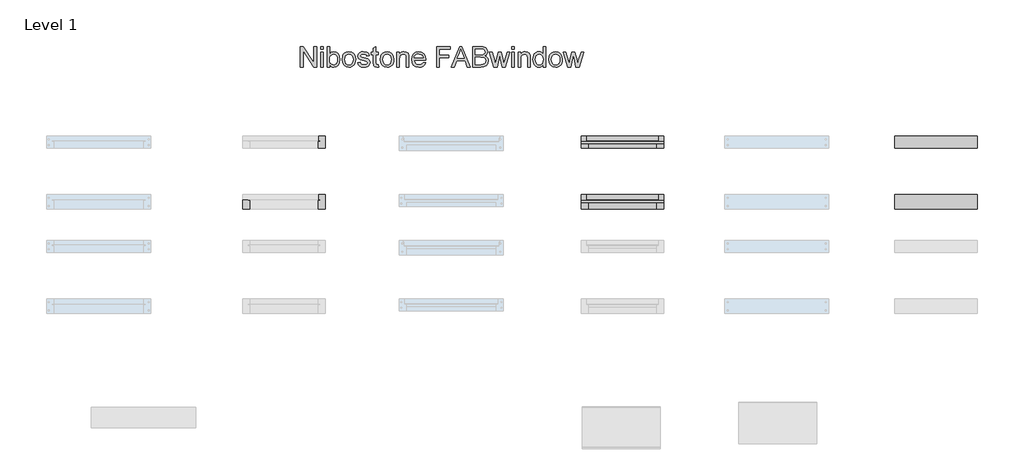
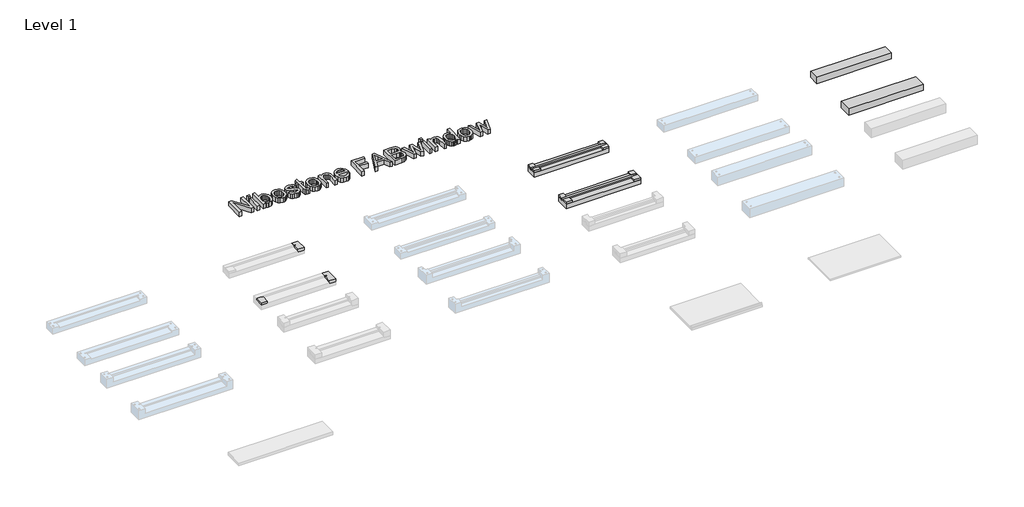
# One storey, part 4 of 4: 12 proxies.
"""IFC4 building model written with IfcOpenShell, lengths in millimetres."""

from ifc_helpers import new_model, si_unit, frame, origin, origin_with_axes, place, context, project, spatial, polyline, outline, extrude, faceted_brep, element, save

model = new_model("IFC4")

# Units and contexts
model_context = context("Model", 3, world=origin())
ifc_project = project(units=[si_unit("LENGTHUNIT", "METRE", prefix="MILLI")], contexts=[model_context])

# Site, building, storey
site = spatial("IfcSite", under=ifc_project)
building = spatial("IfcBuilding", under=site)
storey = spatial("IfcBuildingStorey", under=building, Name="Level 1", Elevation=0.0)

# Proxies
placement = place(None, origin())
element("IfcBuildingElementProxy", 1, Name="200 mm", ObjectType="200 mm", at=placement, inside=storey, context=model_context, shape_type="SweptSolid", body=[
    extrude(outline(polyline([(13803.9519218, 17664.2498472), (13803.9519218, 17861.1729242), (13830.2980756, 17861.1729242), (13933.182691, 17705.1633088), (13933.182691, 17861.1729242), (13957.7980756, 17861.1729242), (13957.7980756, 17664.2498472), (13931.4519218, 17664.2498472), (13828.5673064, 17820.3075395), (13828.5673064, 17664.2498472), (13803.9519218, 17664.2498472)])), origin_with_axes(), (0.0, 0.0, 1.0), 50.0),
    extrude(outline(polyline([(13997.7980756, 17664.2498472), (13997.7980756, 17808.8652319), (14022.4134603, 17808.8652319), (14022.4134603, 17664.2498472), (13997.7980756, 17664.2498472)])), origin_with_axes(), (0.0, 0.0, 1.0), 50.0),
    extrude(outline(polyline([(13997.7980756, 17836.5575395), (13997.7980756, 17861.1729242), (14022.4134603, 17861.1729242), (14022.4134603, 17836.5575395), (13997.7980756, 17836.5575395)])), origin_with_axes(), (0.0, 0.0, 1.0), 50.0),
    extrude(outline(polyline([(14083.9519218, 17664.2498472), (14059.3365372, 17664.2498472), (14059.3365372, 17861.1729242), (14083.9519218, 17861.1729242), (14083.9519218, 17788.144078), (14101.1874987, 17805.9926357), (14122.605768, 17811.9421549), (14147.2692295, 17806.581578), (14166.4038449, 17791.5094626), (14178.1586526, 17768.0719626), (14182.4134603, 17738.7210011), (14178.0084122, 17705.8604242), (14164.793268, 17681.4133088), (14145.4002391, 17666.2330203), (14122.4615372, 17661.1729242), (14110.8599747, 17662.8045347), (14100.574518, 17667.6993665), (14083.9519218, 17687.2786934), (14083.9519218, 17664.2498472)]), holes=[polyline([(14083.9519218, 17737.5671549), (14085.6346141, 17717.0383088), (14090.682691, 17703.144078), (14103.5793256, 17690.1272511), (14120.3461526, 17685.7883088), (14134.5528833, 17688.9854242), (14146.6923064, 17698.5767703), (14155.0216333, 17714.5022511), (14157.7980756, 17736.7017703), (14155.135816, 17759.2258088), (14147.1490372, 17774.9710011), (14135.3882199, 17784.237828), (14121.4038449, 17787.3267703), (14107.1971141, 17784.1296549), (14095.057691, 17774.5383088), (14086.7283641, 17758.9012895), (14083.9519218, 17737.5671549)])]), origin_with_axes(), (0.0, 0.0, 1.0), 50.0),
    extrude(outline(polyline([(14203.9519218, 17736.5575395), (14209.276441, 17771.425328), (14215.9320901, 17784.9740059), (14225.2499987, 17795.9325395), (14244.9855756, 17807.9397511), (14268.6153833, 17811.9421549), (14294.4747583, 17807.0683569), (14315.1298064, 17792.4469626), (14328.6694699, 17769.2318184), (14333.182691, 17738.5767703), (14331.1874987, 17713.7089819), (14325.2019218, 17694.7786934), (14315.4002391, 17680.6020107), (14301.9567295, 17669.9950395), (14285.9891814, 17663.378453), (14268.6153833, 17661.1729242), (14242.4435083, 17666.0286934), (14221.8124987, 17680.5960011), (14208.417066, 17704.2979242), (14203.9519218, 17736.5575395)]), holes=[polyline([(14228.5673064, 17736.6056165), (14231.4158641, 17714.3279722), (14239.9615372, 17698.456578), (14252.8221141, 17688.9553761), (14268.6153833, 17685.7883088), (14284.3365372, 17688.9734049), (14297.1730756, 17698.5286934), (14305.7187487, 17714.6104242), (14308.5673064, 17737.3748472), (14305.7007199, 17759.003453), (14297.1009603, 17774.6585011), (14284.246393, 17784.159703), (14268.6153833, 17787.3267703), (14252.8221141, 17784.1717222), (14239.9615372, 17774.706578), (14231.4158641, 17758.8712415), (14228.5673064, 17736.6056165)])]), origin_with_axes(), (0.0, 0.0, 1.0), 50.0),
    extrude(outline(polyline([(14351.6442295, 17707.3267703), (14376.2596141, 17710.4036934), (14380.1418256, 17699.8748472), (14387.6538449, 17692.1344626), (14398.8437487, 17687.3748472), (14413.7596141, 17685.7883088), (14428.495191, 17687.2426357), (14438.855768, 17691.6056165), (14444.9855756, 17697.9277319), (14447.0288449, 17705.2594626), (14444.9735564, 17711.5335011), (14438.807691, 17716.3171549), (14413.4711526, 17723.3363857), (14376.4038449, 17735.3796549), (14360.2259603, 17749.4421549), (14354.7211526, 17769.2979242), (14359.1442295, 17787.6392703), (14371.2115372, 17801.6536934), (14386.8605756, 17808.9373472), (14408.0384603, 17811.9421549), (14437.9903833, 17807.1104242), (14449.1923064, 17801.425328), (14457.0288449, 17794.0335011), (14465.4903833, 17771.9421549), (14440.8749987, 17768.8652319), (14437.7680276, 17776.6116261), (14431.620191, 17782.4469626), (14409.9615372, 17787.3267703), (14395.8269218, 17786.1609049), (14386.4038449, 17782.6633088), (14381.1033641, 17777.6152319), (14379.3365372, 17771.7979242), (14382.2692295, 17764.6344626), (14391.4519218, 17759.2017703), (14412.6538449, 17753.9613857), (14448.7836526, 17742.3748472), (14465.5624987, 17729.2498472), (14470.1237968, 17719.5984049), (14471.6442295, 17707.8556165), (14469.8593737, 17695.7161934), (14464.5048064, 17684.2979242), (14455.7848545, 17674.4962415), (14443.9038449, 17667.206578), (14429.5528833, 17662.6813376), (14413.4230756, 17661.1729242), (14388.6033641, 17664.081578), (14370.4903833, 17672.8075395), (14358.3990372, 17687.2546549), (14351.6442295, 17707.3267703)])), origin_with_axes(), (0.0, 0.0, 1.0), 50.0),
    extrude(outline(polyline([(14551.6442295, 17684.7786934), (14554.7211526, 17663.5286934), (14536.307691, 17661.1729242), (14515.682691, 17665.2594626), (14505.3942295, 17675.9806165), (14502.4134603, 17703.9133088), (14502.4134603, 17784.2498472), (14483.9519218, 17784.2498472), (14483.9519218, 17808.8652319), (14502.4134603, 17808.8652319), (14502.4134603, 17844.0094626), (14527.0288449, 17858.4806165), (14527.0288449, 17808.8652319), (14551.6442295, 17808.8652319), (14551.6442295, 17784.2498472), (14527.0288449, 17784.2498472), (14527.0288449, 17704.6344626), (14528.3269218, 17691.9421549), (14532.5336526, 17687.4469626), (14540.9230756, 17685.7883088), (14551.6442295, 17684.7786934)])), origin_with_axes(), (0.0, 0.0, 1.0), 50.0),
    extrude(outline(polyline([(14570.105768, 17736.5575395), (14575.4302872, 17771.425328), (14582.0859362, 17784.9740059), (14591.4038449, 17795.9325395), (14611.1394218, 17807.9397511), (14634.7692295, 17811.9421549), (14660.6286045, 17807.0683569), (14681.2836526, 17792.4469626), (14694.823316, 17769.2318184), (14699.3365372, 17738.5767703), (14697.3413449, 17713.7089819), (14691.355768, 17694.7786934), (14681.5540853, 17680.6020107), (14668.1105756, 17669.9950395), (14652.1430276, 17663.378453), (14634.7692295, 17661.1729242), (14608.5973545, 17666.0286934), (14587.9663449, 17680.5960011), (14574.5709122, 17704.2979242), (14570.105768, 17736.5575395)]), holes=[polyline([(14594.7211526, 17736.6056165), (14597.5697103, 17714.3279722), (14606.1153833, 17698.456578), (14618.9759603, 17688.9553761), (14634.7692295, 17685.7883088), (14650.4903833, 17688.9734049), (14663.3269218, 17698.5286934), (14671.8725949, 17714.6104242), (14674.7211526, 17737.3748472), (14671.854566, 17759.003453), (14663.2548064, 17774.6585011), (14650.4002391, 17784.159703), (14634.7692295, 17787.3267703), (14618.9759603, 17784.1717222), (14606.1153833, 17774.706578), (14597.5697103, 17758.8712415), (14594.7211526, 17736.6056165)])]), origin_with_axes(), (0.0, 0.0, 1.0), 50.0),
    extrude(outline(polyline([(14727.0288449, 17664.2498472), (14727.0288449, 17808.8652319), (14751.6442295, 17808.8652319), (14751.6442295, 17788.6729242), (14760.1959122, 17798.8532126), (14770.4663449, 17806.1248472), (14782.4555276, 17810.487828), (14796.1634603, 17811.9421549), (14819.4086526, 17807.2546549), (14835.2740372, 17794.9469626), (14842.6538449, 17776.8460011), (14843.9519218, 17753.0479242), (14843.9519218, 17664.2498472), (14819.3365372, 17664.2498472), (14819.3365372, 17749.7306165), (14816.4999987, 17771.5094626), (14806.4759603, 17783.0238857), (14789.5769218, 17787.3267703), (14775.1598545, 17784.9109049), (14762.870191, 17777.6633088), (14754.4507199, 17763.6609049), (14751.6442295, 17740.9806165), (14751.6442295, 17664.2498472), (14727.0288449, 17664.2498472)])), origin_with_axes(), (0.0, 0.0, 1.0), 50.0),
    extrude(outline(polyline([(14979.0480756, 17707.3267703), (15003.182691, 17704.2498472), (14994.4867776, 17686.0647511), (14980.6105756, 17672.4710011), (14961.8665853, 17663.9974434), (14938.5673064, 17661.1729242), (14909.6850949, 17666.0467222), (14887.4615372, 17680.6681165), (14873.2908641, 17704.0875876), (14868.5673064, 17735.3556165), (14873.338941, 17767.675328), (14887.6538449, 17791.8460011), (14909.5769218, 17806.9181165), (14937.1730756, 17811.9421549), (14963.9098545, 17806.9301357), (14985.2740372, 17791.894078), (14999.2824506, 17767.7714819), (15003.9519218, 17735.4998472), (15003.807691, 17728.8652319), (14893.182691, 17728.8652319), (14897.4435083, 17710.4397511), (14907.3413449, 17696.894078), (14921.6262006, 17688.5647511), (14939.0480756, 17685.7883088), (14963.182691, 17690.9325395), (14972.1490372, 17697.6032126), (14979.0480756, 17707.3267703)]), holes=[polyline([(14893.182691, 17753.4806165), (14979.3365372, 17753.4806165), (14976.0072103, 17766.4854242), (14969.480768, 17775.7883088), (14955.1298064, 17784.4421549), (14937.0769218, 17787.3267703), (14920.4843737, 17785.0250876), (14906.7644218, 17778.1200395), (14897.2271622, 17767.3568184), (14893.182691, 17753.4806165)])]), origin_with_axes(), (0.0, 0.0, 1.0), 50.0),
    extrude(outline(polyline([(15108.5673064, 17664.2498472), (15108.5673064, 17861.1729242), (15240.8749987, 17861.1729242), (15240.8749987, 17836.5575395), (15133.182691, 17836.5575395), (15133.182691, 17778.0960011), (15225.4903833, 17778.0960011), (15225.4903833, 17753.4806165), (15133.182691, 17753.4806165), (15133.182691, 17664.2498472), (15108.5673064, 17664.2498472)])), origin_with_axes(), (0.0, 0.0, 1.0), 50.0),
    extrude(outline(polyline([(15251.7884603, 17664.2498472), (15330.3942295, 17861.1729242), (15351.355768, 17861.1729242), (15429.9615372, 17664.2498472), (15403.9519218, 17664.2498472), (15381.4038449, 17725.7883088), (15300.2980756, 17725.7883088), (15277.7980756, 17664.2498472), (15251.7884603, 17664.2498472)]), holes=[polyline([(15309.3365372, 17750.4036934), (15372.4134603, 17750.4036934), (15354.6730756, 17798.8171549), (15340.8749987, 17836.5575395), (15328.6153833, 17803.0479242), (15309.3365372, 17750.4036934)])]), origin_with_axes(), (0.0, 0.0, 1.0), 50.0),
    extrude(outline(polyline([(15456.2596141, 17664.2498472), (15456.2596141, 17861.1729242), (15531.4038449, 17861.1729242), (15552.0709122, 17859.7246069), (15568.2067295, 17855.3796549), (15580.574518, 17848.0298953), (15589.9374987, 17837.5671549), (15595.8329314, 17825.2594626), (15597.7980756, 17812.3748472), (15596.1454314, 17800.5178761), (15591.1874987, 17789.3700395), (15582.8882199, 17779.6164338), (15571.2115372, 17771.9421549), (15585.1598545, 17764.6585011), (15595.4663449, 17753.5767703), (15601.8305276, 17739.4301357), (15603.9519218, 17722.9517703), (15598.1586526, 17696.4854242), (15583.807691, 17677.6392703), (15562.3894218, 17667.6392703), (15530.8269218, 17664.2498472), (15456.2596141, 17664.2498472)]), holes=[polyline([(15480.8749987, 17781.1729242), (15525.8269218, 17781.1729242), (15552.0769218, 17783.2883088), (15567.870191, 17792.3988857), (15573.182691, 17808.4325395), (15568.230768, 17824.4902319), (15554.0480756, 17833.9854242), (15522.4134603, 17836.5575395), (15480.8749987, 17836.5575395), (15480.8749987, 17781.1729242)]), polyline([(15480.8749987, 17688.8652319), (15531.355768, 17688.8652319), (15549.6249987, 17689.8267703), (15565.0817295, 17695.1873472), (15575.3221141, 17706.1248472), (15579.3365372, 17722.7113857), (15574.6249987, 17741.8460011), (15568.4531237, 17748.7630684), (15559.3605756, 17753.2642703), (15528.9519218, 17756.5575395), (15480.8749987, 17756.5575395), (15480.8749987, 17688.8652319)])]), origin_with_axes(), (0.0, 0.0, 1.0), 50.0),
    extrude(outline(polyline([(15658.7115372, 17664.2498472), (15614.7211526, 17808.8652319), (15640.2980756, 17808.8652319), (15665.2499987, 17724.4902319), (15672.7019218, 17694.3460011), (15678.807691, 17723.3844626), (15698.6634603, 17808.8652319), (15727.9903833, 17808.8652319), (15747.7499987, 17723.6248472), (15753.182691, 17697.3267703), (15760.9711526, 17725.0671549), (15785.9711526, 17808.8652319), (15811.6442295, 17808.8652319), (15767.3173064, 17664.2498472), (15737.557691, 17664.2498472), (15718.6634603, 17749.0575395), (15713.182691, 17775.4998472), (15688.807691, 17664.2498472), (15658.7115372, 17664.2498472)])), origin_with_axes(), (0.0, 0.0, 1.0), 50.0),
    extrude(outline(polyline([(15828.5673064, 17664.2498472), (15828.5673064, 17808.8652319), (15853.182691, 17808.8652319), (15853.182691, 17664.2498472), (15828.5673064, 17664.2498472)])), origin_with_axes(), (0.0, 0.0, 1.0), 50.0),
    extrude(outline(polyline([(15828.5673064, 17836.5575395), (15828.5673064, 17861.1729242), (15853.182691, 17861.1729242), (15853.182691, 17836.5575395), (15828.5673064, 17836.5575395)])), origin_with_axes(), (0.0, 0.0, 1.0), 50.0),
    extrude(outline(polyline([(15890.105768, 17664.2498472), (15890.105768, 17808.8652319), (15914.7211526, 17808.8652319), (15914.7211526, 17788.6729242), (15923.2728353, 17798.8532126), (15933.543268, 17806.1248472), (15945.5324506, 17810.487828), (15959.2403833, 17811.9421549), (15982.4855756, 17807.2546549), (15998.3509603, 17794.9469626), (16005.730768, 17776.8460011), (16007.0288449, 17753.0479242), (16007.0288449, 17664.2498472), (15982.4134603, 17664.2498472), (15982.4134603, 17749.7306165), (15979.5769218, 17771.5094626), (15969.5528833, 17783.0238857), (15952.6538449, 17787.3267703), (15938.2367776, 17784.9109049), (15925.9471141, 17777.6633088), (15917.527643, 17763.6609049), (15914.7211526, 17740.9806165), (15914.7211526, 17664.2498472), (15890.105768, 17664.2498472)])), origin_with_axes(), (0.0, 0.0, 1.0), 50.0),
    extrude(outline(polyline([(16130.105768, 17664.2498472), (16130.105768, 17687.4710011), (16122.7409843, 17675.9655924), (16113.8197103, 17667.7474434), (16103.3419458, 17662.816554), (16091.307691, 17661.1729242), (16075.3942295, 17663.5527319), (16060.8269218, 17670.6921549), (16048.495191, 17682.0923953), (16039.2884603, 17697.2546549), (16033.5552872, 17715.565953), (16031.6442295, 17736.4133088), (16033.4050468, 17757.0022511), (16038.6874987, 17775.5960011), (16047.4855756, 17791.1368665), (16059.793268, 17802.5671549), (16074.6790853, 17809.5984049), (16091.2115372, 17811.9421549), (16103.2548064, 17810.2654722), (16113.9038449, 17805.2354242), (16130.105768, 17787.8075395), (16130.105768, 17861.1729242), (16154.7211526, 17861.1729242), (16154.7211526, 17664.2498472), (16130.105768, 17664.2498472)]), holes=[polyline([(16056.2596141, 17736.5094626), (16059.0360564, 17714.2438376), (16067.3653833, 17698.4085011), (16079.4687487, 17688.9433569), (16093.5673064, 17685.7883088), (16107.6598545, 17688.7991261), (16119.4567295, 17697.831578), (16127.4435083, 17713.0539338), (16130.105768, 17734.6344626), (16127.3954314, 17758.2282126), (16119.2644218, 17774.5863857), (16107.167066, 17784.1416742), (16092.557691, 17787.3267703), (16078.3149026, 17784.2678761), (16066.6442295, 17775.0911934), (16058.855768, 17759.3279722), (16056.2596141, 17736.5094626)])]), origin_with_axes(), (0.0, 0.0, 1.0), 50.0),
    extrude(outline(polyline([(16185.4903833, 17736.5575395), (16190.8149026, 17771.425328), (16197.4705516, 17784.9740059), (16206.7884603, 17795.9325395), (16226.5240372, 17807.9397511), (16250.1538449, 17811.9421549), (16276.0132199, 17807.0683569), (16296.668268, 17792.4469626), (16310.2079314, 17769.2318184), (16314.7211526, 17738.5767703), (16312.7259603, 17713.7089819), (16306.7403833, 17694.7786934), (16296.9387006, 17680.6020107), (16283.495191, 17669.9950395), (16267.527643, 17663.378453), (16250.1538449, 17661.1729242), (16223.9819699, 17666.0286934), (16203.3509603, 17680.5960011), (16189.9555276, 17704.2979242), (16185.4903833, 17736.5575395)]), holes=[polyline([(16210.105768, 17736.6056165), (16212.9543256, 17714.3279722), (16221.4999987, 17698.456578), (16234.3605756, 17688.9553761), (16250.1538449, 17685.7883088), (16265.8749987, 17688.9734049), (16278.7115372, 17698.5286934), (16287.2572103, 17714.6104242), (16290.105768, 17737.3748472), (16287.2391814, 17759.003453), (16278.6394218, 17774.6585011), (16265.7848545, 17784.159703), (16250.1538449, 17787.3267703), (16234.3605756, 17784.1717222), (16221.4999987, 17774.706578), (16212.9543256, 17758.8712415), (16210.105768, 17736.6056165)])]), origin_with_axes(), (0.0, 0.0, 1.0), 50.0),
    extrude(outline(polyline([(16366.4038449, 17664.2498472), (16322.4134603, 17808.8652319), (16347.9903833, 17808.8652319), (16372.9423064, 17724.4902319), (16380.3942295, 17694.3460011), (16386.4999987, 17723.3844626), (16406.355768, 17808.8652319), (16435.682691, 17808.8652319), (16455.4423064, 17723.6248472), (16460.8749987, 17697.3267703), (16468.6634603, 17725.0671549), (16493.6634603, 17808.8652319), (16519.3365372, 17808.8652319), (16475.0096141, 17664.2498472), (16445.2499987, 17664.2498472), (16426.355768, 17749.0575395), (16420.8749987, 17775.4998472), (16396.4999987, 17664.2498472), (16366.4038449, 17664.2498472)])), origin_with_axes(), (0.0, 0.0, 1.0), 50.0),
])
element("IfcBuildingElementProxy", 2, Name="Nibostone : BLOK-114-70", ObjectType="Nibostone : BLOK-114-70", at=placement, inside=storey, context=model_context, shape_type="SweptSolid", body=[
    extrude(outline(polyline([(19500.0, 16885.5777074), (19500.0, 16999.5777074), (20293.7366492, 16999.5777074), (20293.7366492, 16885.5777074), (19500.0, 16885.5777074)])), frame((0.0, 0.0, -26.0), z_axis=(0.0, 0.0, 1.0), x_axis=(1.0, 0.0, 0.0)), (0.0, 0.0, 1.0), 70.0),
])
element("IfcBuildingElementProxy", 3, Name="Nibostone : BLOK-139-70", ObjectType="Nibostone : BLOK-139-70", at=placement, inside=storey, context=model_context, shape_type="SweptSolid", body=[
    extrude(outline(polyline([(19500.0, 16301.0), (19500.0, 16440.0), (20293.7366492, 16440.0), (20293.7366492, 16301.0), (19500.0, 16301.0)])), frame((0.0, 0.0, -26.0), z_axis=(0.0, 0.0, 1.0), x_axis=(1.0, 0.0, 0.0)), (0.0, 0.0, 1.0), 70.0),
])
element("IfcBuildingElementProxy", 4, Name="Nibostone : DA-51-114", ObjectType="Nibostone : DA-51-114", at=placement, inside=storey, context=model_context, shape_type="Brep", body=[
    faceted_brep([(16493.7645592, 16999.5777074, -26.0), (16493.7645592, 16999.5777074, 26.5633906), (17287.5012085, 16999.5777074, 26.5633906), (17287.5012085, 16999.5777074, -26.0), (16493.7645592, 16958.5777074, 26.5633906), (16543.7645592, 16958.5777074, 26.5633906), (17237.5012085, 16958.5777074, 26.5633906), (17287.5012085, 16958.5777074, 26.5633906), (16493.7645592, 16928.5777074, 26.3887468), (16493.7645592, 16885.5777074, 24.5113263), (16560.7645592, 16885.5777074, 24.5113263), (17220.5012085, 16885.5777074, 24.5113263), (17287.5012085, 16885.5777074, 24.5113263), (17287.5012085, 16928.5777074, 26.3887468), (17220.5012085, 16928.5777074, 26.3887468), (16560.7645592, 16928.5777074, 26.3887468), (16493.7645592, 16885.5777074, -26.0), (17287.5012085, 16885.5777074, -26.0), (17287.5012085, 16958.5777074, 21.5633906), (17287.5012085, 16948.5777074, 21.5633906), (17287.5012085, 16948.5777074, 44.0), (17287.5012085, 16928.5777074, 44.0), (16493.7645592, 16928.5777074, 44.0), (16493.7645592, 16948.5777074, 44.0), (16493.7645592, 16948.5777074, 21.5633906), (16493.7645592, 16958.5777074, 21.5633906), (16543.7645592, 16958.5777074, 21.5633906), (17237.5012085, 16958.5777074, 21.5633906), (17220.5012085, 16928.5777074, 44.0), (16560.7645592, 16928.5777074, 44.0), (17237.5012085, 16948.5777074, 44.0), (16543.7645592, 16948.5777074, 44.0), (17237.5012085, 16948.5777074, 21.5633906), (16543.7645592, 16948.5777074, 21.5633906)], [[[0, 1, 2, 3]], [[1, 4, 5, 6, 7, 2]], [[8, 9, 10, 11, 12, 13, 14, 15]], [[16, 0, 3, 17]], [[3, 2, 7, 18, 19, 20, 21, 13, 12, 17]], [[9, 16, 17, 12, 11, 10]], [[0, 16, 9, 8, 22, 23, 24, 25, 4, 1]], [[4, 25, 26, 27, 18, 7, 6, 5]], [[22, 8, 15, 14, 13, 21, 28, 29]], [[23, 22, 29, 28, 21, 20, 30, 31]], [[24, 23, 31, 30, 20, 19, 32, 33]], [[25, 24, 33, 32, 19, 18, 27, 26]]]),
])
element("IfcBuildingElementProxy", 5, Name="Nibostone : DA-57-139", ObjectType="Nibostone : DA-57-139", at=placement, inside=storey, context=model_context, shape_type="Brep", body=[
    faceted_brep([(16493.7645592, 16440.0, -26.0), (16493.7645592, 16440.0, 26.5633906), (17287.5012085, 16440.0, 26.5633906), (17287.5012085, 16440.0, -26.0), (16493.7645592, 16393.0, 26.5633906), (16543.7645592, 16393.0, 26.5633906), (17237.5012085, 16393.0, 26.5633906), (17287.5012085, 16393.0, 26.5633906), (16493.7645592, 16363.0, 26.1267811), (16493.7645592, 16301.0, 23.4198027), (16560.7645592, 16301.0, 23.4198027), (17220.5012085, 16301.0, 23.4198027), (17287.5012085, 16301.0, 23.4198027), (17287.5012085, 16363.0, 26.1267811), (17220.5012085, 16363.0, 26.1267811), (16560.7645592, 16363.0, 26.1267811), (16493.7645592, 16301.0, -26.0), (17287.5012085, 16301.0, -26.0), (17287.5012085, 16393.0, 21.5633906), (17287.5012085, 16383.0, 21.5633906), (17287.5012085, 16383.0, 44.0), (17287.5012085, 16363.0, 44.0), (16493.7645592, 16363.0, 44.0), (16493.7645592, 16383.0, 44.0), (16493.7645592, 16383.0, 21.5633906), (16493.7645592, 16393.0, 21.5633906), (16543.7645592, 16393.0, 21.5633906), (17237.5012085, 16393.0, 21.5633906), (17220.5012085, 16363.0, 44.0), (16560.7645592, 16363.0, 44.0), (17237.5012085, 16383.0, 44.0), (16543.7645592, 16383.0, 44.0), (17237.5012085, 16383.0, 21.5633906), (16543.7645592, 16383.0, 21.5633906)], [[[0, 1, 2, 3]], [[1, 4, 5, 6, 7, 2]], [[8, 9, 10, 11, 12, 13, 14, 15]], [[16, 0, 3, 17]], [[3, 2, 7, 18, 19, 20, 21, 13, 12, 17]], [[9, 16, 17, 12, 11, 10]], [[0, 16, 9, 8, 22, 23, 24, 25, 4, 1]], [[4, 25, 26, 27, 18, 7, 6, 5]], [[22, 8, 15, 14, 13, 21, 28, 29]], [[23, 22, 29, 28, 21, 20, 30, 31]], [[24, 23, 31, 30, 20, 19, 32, 33]], [[25, 24, 33, 32, 19, 18, 27, 26]]]),
])
element("IfcBuildingElementProxy", 6, Name="BI-NEUT-51-114 : std", ObjectType="BI-NEUT-51-114 : std", at=placement, inside=storey, context=model_context, shape_type="Brep", body=[
    faceted_brep([(14043.7366492, 16964.4229826, 8.9806081), (14043.7366492, 16885.5777074, 8.9806081), (13976.7366492, 16885.5777074, 8.9806081), (13976.7366492, 16948.5777074, 8.9806081), (13993.7366492, 16948.5777074, 8.9806081), (13993.7366492, 16958.5777074, 8.9806081), (13976.7366492, 16958.5777074, 8.9806081), (13976.7366492, 16964.5777074, 8.9806081), (13993.7366492, 16948.5777074, 44.0), (13993.7366492, 16948.5777074, 27.2619657), (13976.7366492, 16948.5777074, 27.2619657), (13976.7366492, 16948.5777074, 44.0), (13993.7366492, 16958.5777074, 27.6985751), (13993.7366492, 16958.5777074, 44.0), (13976.7366492, 16958.5777074, 44.0), (13976.7366492, 16958.5777074, 27.6985751), (13976.7366492, 16999.5742907, 8.9806081), (14043.7366492, 16999.5742907, 8.9806081), (13976.7366492, 16999.5742907, 44.0), (14043.7366492, 16999.5742907, 44.0), (13976.7366492, 16885.5777074, 44.0), (14043.7366492, 16885.5777074, 44.0), (13976.7366492, 16885.5777074, 24.5113263)], [[[0, 1, 2, 3, 4, 5, 6, 7]], [[8, 9, 4, 3, 10, 11]], [[5, 12, 13, 14, 15, 6]], [[0, 7, 16, 17]], [[17, 16, 18, 19]], [[19, 18, 14, 13, 8, 11, 20, 21]], [[2, 1, 21, 20, 22]], [[2, 22, 20, 11, 10, 3]], [[16, 7, 6, 15, 14, 18]], [[1, 0, 17, 19, 21]], [[4, 9, 8, 13, 12, 5]]]),
])
element("IfcBuildingElementProxy", 7, Name="BI-NEUT-57-139 : std", ObjectType="BI-NEUT-57-139 : std", at=placement, inside=storey, context=model_context, shape_type="Brep", body=[
    faceted_brep([(14043.7366492, 16404.8452752, 8.9806081), (14043.7366492, 16301.0, 8.9806081), (13976.7366492, 16301.0, 8.9806081), (13976.7366492, 16383.0, 8.9806081), (13993.7366492, 16383.0, 8.9806081), (13993.7366492, 16393.0, 8.9806081), (13976.7366492, 16393.0, 8.9806081), (13976.7366492, 16405.0, 8.9806081), (13993.7366492, 16383.0, 44.0), (13993.7366492, 16383.0, 27.0), (13976.7366492, 16383.0, 27.0), (13976.7366492, 16383.0, 44.0), (13993.7366492, 16393.0, 27.4366094), (13993.7366492, 16393.0, 44.0), (13976.7366492, 16393.0, 44.0), (13976.7366492, 16393.0, 27.4366094), (13976.7366492, 16439.9965833, 8.9806081), (14043.7366492, 16439.9965833, 8.9806081), (13976.7366492, 16439.9965833, 44.0), (14043.7366492, 16439.9965833, 44.0), (13976.7366492, 16301.0, 44.0), (14043.7366492, 16301.0, 44.0), (13976.7366492, 16301.0, 23.4198027)], [[[0, 1, 2, 3, 4, 5, 6, 7]], [[8, 9, 4, 3, 10, 11]], [[5, 12, 13, 14, 15, 6]], [[0, 7, 16, 17]], [[17, 16, 18, 19]], [[19, 18, 14, 13, 8, 11, 20, 21]], [[2, 1, 21, 20, 22]], [[4, 9, 8, 13, 12, 5]], [[16, 7, 6, 15, 14, 18]], [[2, 22, 20, 11, 10, 3]], [[1, 0, 17, 19, 21]]]),
])
element("IfcBuildingElementProxy", 8, Name="BI-NEUT-57-139 : std", ObjectType="BI-NEUT-57-139 : std", at=placement, inside=storey, context=model_context, shape_type="Brep", body=[
    faceted_brep([(13300.0, 16383.0, 44.0), (13317.0, 16383.0, 44.0), (13317.0, 16383.0, 27.0), (13300.0, 16383.0, 27.0), (13300.0, 16393.0, 27.4366094), (13250.0, 16393.0, 27.4366094), (13250.0, 16393.0, 44.0), (13300.0, 16393.0, 44.0), (13250.0, 16301.0, 44.0), (13317.0, 16301.0, 44.0), (13250.0, 16301.0, 23.4198027), (13317.0, 16301.0, 23.4198027)], [[[0, 1, 2, 3]], [[4, 5, 6, 7]], [[0, 7, 6, 8, 9, 1]], [[9, 8, 10, 11]], [[7, 0, 3, 4]], [[5, 4, 3, 2, 11, 10]], [[1, 9, 11, 2]], [[8, 6, 5, 10]]]),
])
element("IfcBuildingElementProxy", 9, Name="DA-NEUT-51-114 : std", ObjectType="DA-NEUT-51-114 : std", at=placement, inside=storey, context=model_context, shape_type="Brep", body=[
    faceted_brep([(17237.5012085, 16999.5742907, 44.0), (17287.5012085, 16999.5742907, 44.0), (17287.5012085, 16999.5742907, 26.5633906), (17237.5012085, 16999.5742907, 26.5633906), (17237.5012085, 16948.5742907, 44.0), (17237.5012085, 16958.5777074, 26.5633906), (17237.5012085, 16958.5777074, 21.5633906), (17237.5012085, 16948.5742907, 21.5633906), (17287.5012085, 16958.5777074, 26.5633906), (17287.5012085, 16958.5777074, 21.5633906), (17287.5012085, 16948.5777074, 21.5633906), (17287.5012085, 16948.5777074, 44.0)], [[[0, 1, 2, 3]], [[4, 0, 3, 5, 6, 7]], [[8, 5, 3, 2]], [[5, 8, 9, 6]], [[7, 10, 11, 4]], [[10, 7, 6, 9]], [[1, 0, 4, 11]], [[2, 1, 11, 10, 9, 8]]]),
    faceted_brep([(17220.5012085, 16885.5777074, 44.0), (17287.5012085, 16885.5777074, 44.0), (17287.5012085, 16928.5777074, 44.0), (17220.5012085, 16928.5777074, 44.0), (17220.5012085, 16885.5777074, 24.5113263), (17287.5012085, 16885.5777074, 24.5113263), (17220.5012085, 16928.5777074, 26.3887468), (17287.5012085, 16928.5777074, 26.3887468)], [[[0, 1, 2, 3]], [[1, 0, 4, 5]], [[0, 3, 6, 4]], [[2, 1, 5, 7]], [[6, 7, 5, 4]], [[7, 6, 3, 2]]]),
])
element("IfcBuildingElementProxy", 10, Name="DA-NEUT-51-114 : std", ObjectType="DA-NEUT-51-114 : std", at=placement, inside=storey, context=model_context, shape_type="SweptSolid", body=[
    extrude(outline(polyline([(16999.5742907, 44.0), (16999.5742907, 26.5633906), (16958.5777074, 26.5633906), (16958.5777074, 21.5633906), (16948.5777074, 21.5633906), (16948.5777074, 44.0), (16999.5742907, 44.0)])), frame((16493.7645592, 0.0, 0.0), z_axis=(1.0, 0.0, 0.0), x_axis=(0.0, 1.0, 0.0)), (0.0, 0.0, 1.0), 50.0),
    extrude(outline(polyline([(16885.5777074, 44.0), (16928.5777074, 44.0), (16928.5777074, 26.3887468), (16885.5777074, 24.5113263), (16885.5777074, 44.0)])), frame((16493.7645592, 0.0, 0.0), z_axis=(1.0, 0.0, 0.0), x_axis=(0.0, 1.0, 0.0)), (0.0, 0.0, 1.0), 67.0),
])
element("IfcBuildingElementProxy", 11, Name="DA-NEUT-57-139 : std", ObjectType="DA-NEUT-57-139 : std", at=placement, inside=storey, context=model_context, shape_type="Brep", body=[
    faceted_brep([(17237.5012085, 16439.9965833, 44.0), (17287.5012085, 16439.9965833, 44.0), (17287.5012085, 16439.9965833, 26.5633906), (17237.5012085, 16439.9965833, 26.5633906), (17237.5012085, 16382.9987818, 44.0), (17237.5012085, 16393.0, 26.5633906), (17237.5012085, 16393.0, 21.5633906), (17237.5012085, 16382.9995623, 21.5633906), (17287.5012085, 16393.0, 26.5633906), (17287.5012085, 16393.0, 21.5633906), (17287.5012085, 16383.0, 21.5633906), (17287.5012085, 16383.0, 44.0)], [[[0, 1, 2, 3]], [[4, 0, 3, 5, 6, 7]], [[8, 5, 3, 2]], [[5, 8, 9, 6]], [[7, 10, 11, 4]], [[10, 7, 6, 9]], [[1, 0, 4, 11]], [[2, 1, 11, 10, 9, 8]]]),
    faceted_brep([(17287.5012085, 16301.0, 44.0), (17220.5012085, 16301.0, 44.0), (17220.5012085, 16301.0, 23.4198027), (17287.5012085, 16301.0, 23.4198027), (17287.5012085, 16363.0, 44.0), (17220.5012085, 16363.0, 44.0), (17220.5012085, 16363.0, 26.1267811), (17287.5012085, 16363.0, 26.1267811)], [[[0, 1, 2, 3]], [[1, 0, 4, 5]], [[2, 1, 5, 6]], [[0, 3, 7, 4]], [[6, 7, 3, 2]], [[7, 6, 5, 4]]]),
])
element("IfcBuildingElementProxy", 12, Name="DA-NEUT-57-139 : std", ObjectType="DA-NEUT-57-139 : std", at=placement, inside=storey, context=model_context, shape_type="SweptSolid", body=[
    extrude(outline(polyline([(16439.9965833, 44.0), (16439.9965833, 26.5633906), (16393.0, 26.5633906), (16393.0, 21.5633906), (16383.0, 21.5633906), (16383.0, 44.0), (16439.9965833, 44.0)])), frame((16493.7645592, 0.0, 0.0), z_axis=(1.0, 0.0, 0.0), x_axis=(0.0, 1.0, 0.0)), (0.0, 0.0, 1.0), 50.0),
    extrude(outline(polyline([(16301.0, 23.4198027), (16301.0, 44.0), (16363.0, 44.0), (16363.0, 26.1267811), (16301.0, 23.4198027)])), frame((16493.7645592, 0.0, 0.0), z_axis=(1.0, 0.0, 0.0), x_axis=(0.0, 1.0, 0.0)), (0.0, 0.0, 1.0), 67.0),
])

save(model, "model.ifc")
